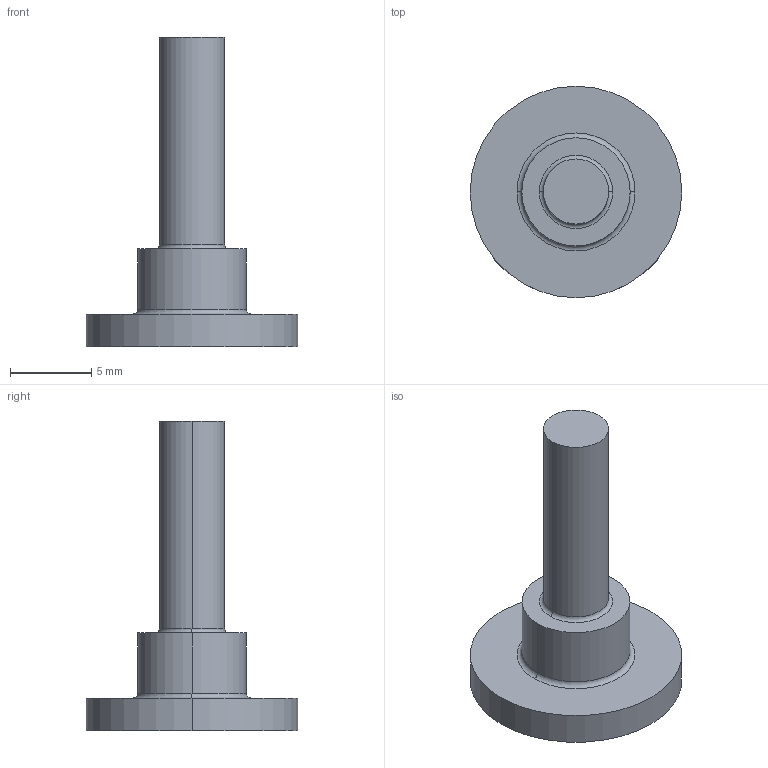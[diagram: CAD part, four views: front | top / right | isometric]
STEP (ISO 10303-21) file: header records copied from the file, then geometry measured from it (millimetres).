
FILE_DESCRIPTION(('FreeCAD Model'),'2;1');
FILE_NAME('Open CASCADE Shape Model','2026-07-02T19:50:05',(''),(''), 'Open CASCADE STEP processor 7.8','FreeCAD','Unknown');
FILE_SCHEMA(('AP242_MANAGED_MODEL_BASED_3D_ENGINEERING_MIM_LF. {1 0 10303 442 1 1 4 }'));
Length unit declared in the file: millimetre
Products named in the file (1): 75T0022
Bounding box: 13 x 13 x 19 mm (x, y, z)
Volume: 568.3 mm3; surface area: 590.1 mm2
Topology: 1 solids, 1 shells, 14 faces, 26 edges, 16 vertices
Faces by surface type: cylinder 6, plane 4, torus 4
Entity records: 380 total; most frequent: DIRECTION 76, CARTESIAN_POINT 57, ORIENTED_EDGE 52, AXIS2_PLACEMENT_3D 35, EDGE_CURVE 26, CIRCLE 20, FACE_BOUND 16, EDGE_LOOP 16
